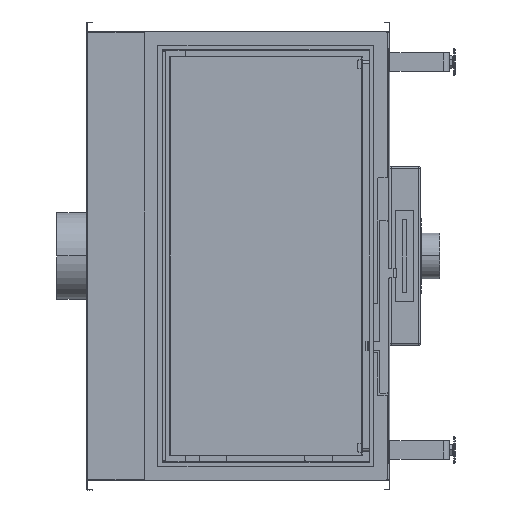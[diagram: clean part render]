
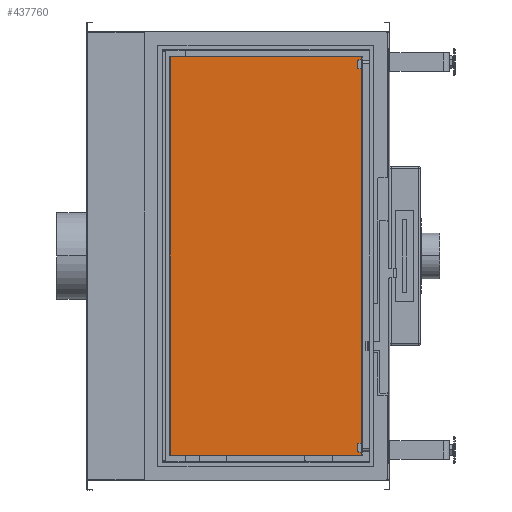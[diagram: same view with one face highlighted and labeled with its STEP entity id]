
A CAD part, left-side view. The second image highlights one B-rep face of the part: STEP entity #437760.
In plain terms, the highlighted planar face has unit normal (-1, 0, 0) as drawn and (1, 0, 0) by its records, which use the part's own axes.
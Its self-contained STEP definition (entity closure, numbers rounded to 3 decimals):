
#436820=CARTESIAN_POINT('',(-14.636,33.5,
11.554));
#436830=DIRECTION('',(-0.,1.,0.));
#436840=VECTOR('',#436830,1.);
#436850=LINE('',#436820,#436840);
#436860=CARTESIAN_POINT('',(-14.636,-408.,
11.554));
#436870=VERTEX_POINT('',#436860);
#436880=CARTESIAN_POINT('',(-14.636,10.,
11.554));
#436890=VERTEX_POINT('',#436880);
#436900=EDGE_CURVE('',#436870,#436890,#436850,.T.);
#437170=CARTESIAN_POINT('',(-14.636,10.,
882.554));
#437180=VERTEX_POINT('',#437170);
#437270=CARTESIAN_POINT('',(-14.636,10.,
97.054));
#437280=DIRECTION('',(0.,0.,1.));
#437290=VECTOR('',#437280,1.);
#437300=LINE('',#437270,#437290);
#437310=EDGE_CURVE('',#436890,#437180,#437300,.T.);
#437450=CARTESIAN_POINT('',(-14.636,-408.,
882.554));
#437460=VERTEX_POINT('',#437450);
#437510=CARTESIAN_POINT('',(-14.636,33.5,
882.554));
#437520=DIRECTION('',(-0.,1.,0.));
#437530=VECTOR('',#437520,1.);
#437540=LINE('',#437510,#437530);
#437550=EDGE_CURVE('',#437460,#437180,#437540,.T.);
#437600=CARTESIAN_POINT('',(-14.636,-349.,
547.054));
#437610=DIRECTION('',(1.,0.,0.));
#437620=DIRECTION('',(0.,0.,-1.));
#437630=AXIS2_PLACEMENT_3D('',#437600,#437610,#437620);
#437640=PLANE('',#437630);
#437650=CARTESIAN_POINT('',(-14.636,-408.,
447.054));
#437660=DIRECTION('',(0.,0.,-1.));
#437670=VECTOR('',#437660,1.);
#437680=LINE('',#437650,#437670);
#437690=EDGE_CURVE('',#437460,#436870,#437680,.T.);
#437700=ORIENTED_EDGE('',*,*,#437690,.T.);
#437710=ORIENTED_EDGE('',*,*,#437550,.F.);
#437720=ORIENTED_EDGE('',*,*,#437310,.T.);
#437730=ORIENTED_EDGE('',*,*,#436900,.T.);
#437740=EDGE_LOOP('',(#437730,#437720,#437710,#437700));
#437750=FACE_OUTER_BOUND('',#437740,.T.);
#437760=ADVANCED_FACE('',(#437750),#437640,.T.);
